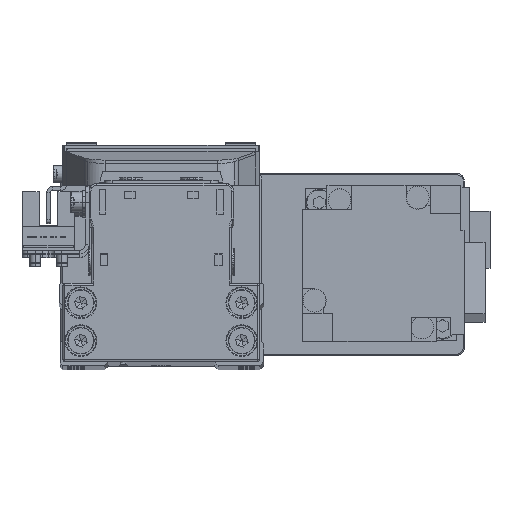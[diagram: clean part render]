
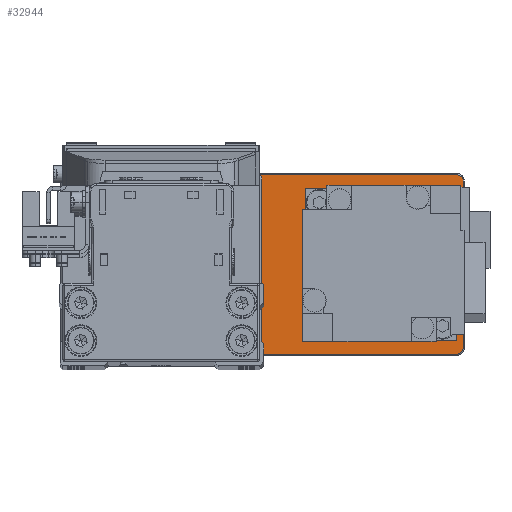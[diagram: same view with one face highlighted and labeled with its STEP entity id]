
A CAD part, top view. The second image highlights one B-rep face of the part: STEP entity #32944.
In plain terms, the highlighted planar face has unit normal (0, 0, 1).
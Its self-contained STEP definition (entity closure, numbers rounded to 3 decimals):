
#344 = DIRECTION ( 'NONE',  ( 0., 0., 1. ) ) ;
#508 = EDGE_LOOP ( 'NONE', ( #4934, #20966 ) ) ;
#702 = LINE ( 'NONE', #13137, #9302 ) ;
#781 = CARTESIAN_POINT ( 'NONE',  ( 17.2, 0., 5. ) ) ;
#917 = AXIS2_PLACEMENT_3D ( 'NONE', #18964, #31425, #3449 ) ;
#1175 = DIRECTION ( 'NONE',  ( 0., 0., -1. ) ) ;
#1301 = LINE ( 'NONE', #13743, #38332 ) ;
#1773 = EDGE_LOOP ( 'NONE', ( #14395, #31004, #20648, #4699, #21475, #10216, #39048, #19666 ) ) ;
#1898 = EDGE_CURVE ( 'NONE', #31561, #38692, #26847, .T. ) ;
#1909 = CARTESIAN_POINT ( 'NONE',  ( 42.8, 0., 5. ) ) ;
#2169 = CIRCLE ( 'NONE', #7350, 10.3 ) ;
#2360 = DIRECTION ( 'NONE',  ( 1., 0., 0. ) ) ;
#2397 = VERTEX_POINT ( 'NONE', #36330 ) ;
#3020 = CARTESIAN_POINT ( 'NONE',  ( 30., 0., 5. ) ) ;
#3239 = CARTESIAN_POINT ( 'NONE',  ( 50., 23.7, 5. ) ) ;
#3449 = DIRECTION ( 'NONE',  ( 1., 0., 0. ) ) ;
#3804 = CIRCLE ( 'NONE', #26618, 1.7 ) ;
#4608 = VERTEX_POINT ( 'NONE', #36456 ) ;
#4699 = ORIENTED_EDGE ( 'NONE', *, *, #35232, .T. ) ;
#4934 = ORIENTED_EDGE ( 'NONE', *, *, #25107, .T. ) ;
#6499 = PLANE ( 'NONE',  #917 ) ;
#6975 = DIRECTION ( 'NONE',  ( 0., 1., 0. ) ) ;
#7350 = AXIS2_PLACEMENT_3D ( 'NONE', #29154, #1175, #13623 ) ;
#7366 = CARTESIAN_POINT ( 'NONE',  ( -50., -23.7, 5. ) ) ;
#7988 = EDGE_CURVE ( 'NONE', #16053, #39554, #30489, .T. ) ;
#8131 = CARTESIAN_POINT ( 'NONE',  ( -51.7, -22., 5. ) ) ;
#8307 = ORIENTED_EDGE ( 'NONE', *, *, #29819, .T. ) ;
#8931 = CIRCLE ( 'NONE', #14172, 1.7 ) ;
#9220 = AXIS2_PLACEMENT_3D ( 'NONE', #28323, #344, #12780 ) ;
#9302 = VECTOR ( 'NONE', #25604, 1000. ) ;
#9552 = FACE_BOUND ( 'NONE', #38504, .T. ) ;
#9935 = CARTESIAN_POINT ( 'NONE',  ( -28., 0., 5. ) ) ;
#10156 = CIRCLE ( 'NONE', #15375, 1.7 ) ;
#10209 = EDGE_CURVE ( 'NONE', #4608, #21282, #3804, .T. ) ;
#10216 = ORIENTED_EDGE ( 'NONE', *, *, #10209, .T. ) ;
#10569 = VERTEX_POINT ( 'NONE', #36347 ) ;
#11157 = DIRECTION ( 'NONE',  ( 0., 0., 1. ) ) ;
#11616 = DIRECTION ( 'NONE',  ( 0., 0., -1. ) ) ;
#12175 = CARTESIAN_POINT ( 'NONE',  ( 50., -23.7, 5. ) ) ;
#12780 = DIRECTION ( 'NONE',  ( 1., 0., 0. ) ) ;
#12877 = AXIS2_PLACEMENT_3D ( 'NONE', #39591, #11616, #24086 ) ;
#13137 = CARTESIAN_POINT ( 'NONE',  ( -50., 23.7, 5. ) ) ;
#13536 = VERTEX_POINT ( 'NONE', #30197 ) ;
#13623 = DIRECTION ( 'NONE',  ( 1., 0., 0. ) ) ;
#13743 = CARTESIAN_POINT ( 'NONE',  ( -51.7, -22., 5. ) ) ;
#14172 = AXIS2_PLACEMENT_3D ( 'NONE', #17880, #30328, #2360 ) ;
#14395 = ORIENTED_EDGE ( 'NONE', *, *, #22299, .T. ) ;
#15345 = CARTESIAN_POINT ( 'NONE',  ( -50., 22., 5. ) ) ;
#15375 = AXIS2_PLACEMENT_3D ( 'NONE', #39127, #11157, #23613 ) ;
#15463 = DIRECTION ( 'NONE',  ( 0., 0., -1. ) ) ;
#15882 = EDGE_CURVE ( 'NONE', #35016, #4608, #702, .T. ) ;
#16053 = VERTEX_POINT ( 'NONE', #1909 ) ;
#17880 = CARTESIAN_POINT ( 'NONE',  ( 50., -22., 5. ) ) ;
#18730 = CARTESIAN_POINT ( 'NONE',  ( 50., -23.7, 5. ) ) ;
#18964 = CARTESIAN_POINT ( 'NONE',  ( 0., 0., 5. ) ) ;
#19543 = VERTEX_POINT ( 'NONE', #18730 ) ;
#19628 = EDGE_CURVE ( 'NONE', #13536, #10569, #38273, .T. ) ;
#19666 = ORIENTED_EDGE ( 'NONE', *, *, #1898, .T. ) ;
#19858 = EDGE_CURVE ( 'NONE', #19543, #2397, #8931, .T. ) ;
#20648 = ORIENTED_EDGE ( 'NONE', *, *, #30934, .T. ) ;
#20671 = AXIS2_PLACEMENT_3D ( 'NONE', #9935, #22398, #34840 ) ;
#20966 = ORIENTED_EDGE ( 'NONE', *, *, #19628, .T. ) ;
#21282 = VERTEX_POINT ( 'NONE', #28715 ) ;
#21335 = AXIS2_PLACEMENT_3D ( 'NONE', #3020, #15463, #27949 ) ;
#21475 = ORIENTED_EDGE ( 'NONE', *, *, #15882, .T. ) ;
#22026 = FACE_BOUND ( 'NONE', #508, .T. ) ;
#22299 = EDGE_CURVE ( 'NONE', #38692, #19543, #40141, .T. ) ;
#22398 = DIRECTION ( 'NONE',  ( 0., 0., -1. ) ) ;
#22507 = LINE ( 'NONE', #34952, #37729 ) ;
#23613 = DIRECTION ( 'NONE',  ( 1., 0., 0. ) ) ;
#23787 = VERTEX_POINT ( 'NONE', #31795 ) ;
#24086 = DIRECTION ( 'NONE',  ( 1., 0., 0. ) ) ;
#24650 = DIRECTION ( 'NONE',  ( 1., 0., 0. ) ) ;
#25107 = EDGE_CURVE ( 'NONE', #10569, #13536, #2169, .T. ) ;
#25604 = DIRECTION ( 'NONE',  ( -1., 0., 0. ) ) ;
#26196 = DIRECTION ( 'NONE',  ( 0., -1., 0. ) ) ;
#26618 = AXIS2_PLACEMENT_3D ( 'NONE', #15345, #27819, #40249 ) ;
#26847 = CIRCLE ( 'NONE', #9220, 1.7 ) ;
#27819 = DIRECTION ( 'NONE',  ( 0., 0., 1. ) ) ;
#27949 = DIRECTION ( 'NONE',  ( 1., 0., 0. ) ) ;
#28323 = CARTESIAN_POINT ( 'NONE',  ( -50., -22., 5. ) ) ;
#28715 = CARTESIAN_POINT ( 'NONE',  ( -51.7, 22., 5. ) ) ;
#29154 = CARTESIAN_POINT ( 'NONE',  ( -28., 0., 5. ) ) ;
#29386 = VECTOR ( 'NONE', #24650, 1000. ) ;
#29819 = EDGE_CURVE ( 'NONE', #39554, #16053, #38941, .T. ) ;
#30197 = CARTESIAN_POINT ( 'NONE',  ( -38.3, 0., 5. ) ) ;
#30328 = DIRECTION ( 'NONE',  ( 0., 0., 1. ) ) ;
#30489 = CIRCLE ( 'NONE', #12877, 12.8 ) ;
#30934 = EDGE_CURVE ( 'NONE', #2397, #23787, #22507, .T. ) ;
#31004 = ORIENTED_EDGE ( 'NONE', *, *, #19858, .T. ) ;
#31425 = DIRECTION ( 'NONE',  ( 0., 0., 1. ) ) ;
#31561 = VERTEX_POINT ( 'NONE', #8131 ) ;
#31795 = CARTESIAN_POINT ( 'NONE',  ( 51.7, 22., 5. ) ) ;
#31946 = ORIENTED_EDGE ( 'NONE', *, *, #7988, .T. ) ;
#32944 = ADVANCED_FACE ( 'NONE', ( #9552, #22026, #34475 ), #6499, .T. ) ;
#34475 = FACE_OUTER_BOUND ( 'NONE', #1773, .T. ) ;
#34840 = DIRECTION ( 'NONE',  ( 1., 0., 0. ) ) ;
#34952 = CARTESIAN_POINT ( 'NONE',  ( 51.7, 22., 5. ) ) ;
#35016 = VERTEX_POINT ( 'NONE', #3239 ) ;
#35232 = EDGE_CURVE ( 'NONE', #23787, #35016, #10156, .T. ) ;
#36330 = CARTESIAN_POINT ( 'NONE',  ( 51.7, -22., 5. ) ) ;
#36347 = CARTESIAN_POINT ( 'NONE',  ( -17.7, 0., 5. ) ) ;
#36456 = CARTESIAN_POINT ( 'NONE',  ( -50., 23.7, 5. ) ) ;
#37191 = EDGE_CURVE ( 'NONE', #21282, #31561, #1301, .T. ) ;
#37729 = VECTOR ( 'NONE', #6975, 1000. ) ;
#38273 = CIRCLE ( 'NONE', #20671, 10.3 ) ;
#38332 = VECTOR ( 'NONE', #26196, 1000. ) ;
#38504 = EDGE_LOOP ( 'NONE', ( #31946, #8307 ) ) ;
#38692 = VERTEX_POINT ( 'NONE', #7366 ) ;
#38941 = CIRCLE ( 'NONE', #21335, 12.8 ) ;
#39048 = ORIENTED_EDGE ( 'NONE', *, *, #37191, .T. ) ;
#39127 = CARTESIAN_POINT ( 'NONE',  ( 50., 22., 5. ) ) ;
#39554 = VERTEX_POINT ( 'NONE', #781 ) ;
#39591 = CARTESIAN_POINT ( 'NONE',  ( 30., 0., 5. ) ) ;
#40141 = LINE ( 'NONE', #12175, #29386 ) ;
#40249 = DIRECTION ( 'NONE',  ( 1., 0., 0. ) ) ;
